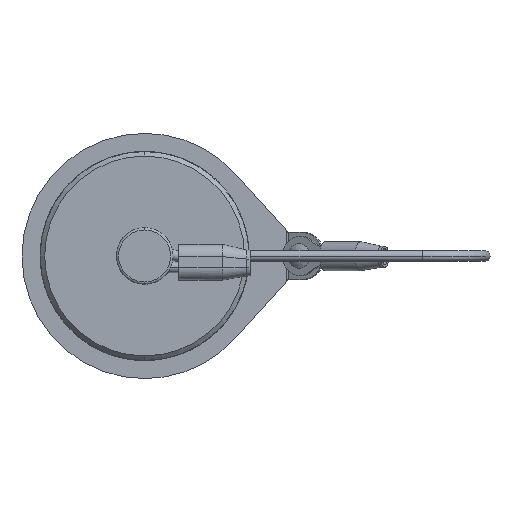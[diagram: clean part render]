
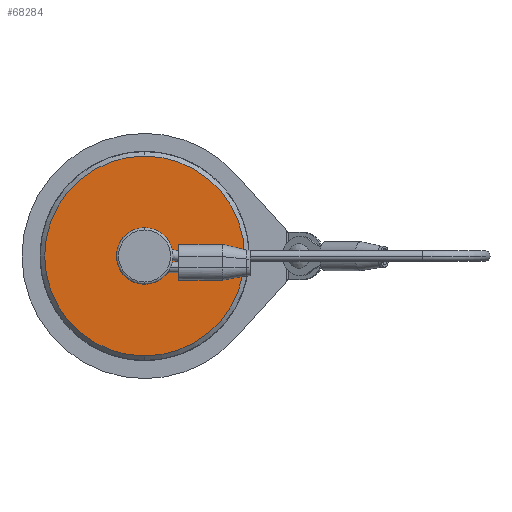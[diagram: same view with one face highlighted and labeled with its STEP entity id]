
A CAD part, left-side view. The second image highlights one B-rep face of the part: STEP entity #68284.
In plain terms, the highlighted planar face has unit normal (-1, 0, 0).
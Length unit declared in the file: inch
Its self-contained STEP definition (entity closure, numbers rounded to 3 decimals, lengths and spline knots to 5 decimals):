
#1373 = DIRECTION ( 'NONE',  ( 1., 0., 0. ) ) ;
#2099 = CARTESIAN_POINT ( 'NONE',  ( 0.25, 0., 0.8825 ) ) ;
#2123 = EDGE_LOOP ( 'NONE', ( #6202, #53183 ) ) ;
#2503 = EDGE_CURVE ( 'NONE', #94293, #85281, #62223, .T. ) ;
#5215 = EDGE_CURVE ( 'NONE', #102620, #30847, #60748, .T. ) ;
#5622 = DIRECTION ( 'NONE',  ( 0., 0., 1. ) ) ;
#6202 = ORIENTED_EDGE ( 'NONE', *, *, #61742, .F. ) ;
#9964 = CIRCLE ( 'NONE', #42790, 0.8825 ) ;
#11215 = CARTESIAN_POINT ( 'NONE',  ( 0.25, 0.8825, 0. ) ) ;
#12260 = FACE_BOUND ( 'NONE', #101169, .T. ) ;
#24865 = CARTESIAN_POINT ( 'NONE',  ( 0.25, 0., 0. ) ) ;
#30847 = VERTEX_POINT ( 'NONE', #61119 ) ;
#34624 = AXIS2_PLACEMENT_3D ( 'NONE', #46193, #45654, #105022 ) ;
#41702 = AXIS2_PLACEMENT_3D ( 'NONE', #11215, #79570, #5622 ) ;
#42790 = AXIS2_PLACEMENT_3D ( 'NONE', #58162, #92137, #65739 ) ;
#43404 = AXIS2_PLACEMENT_3D ( 'NONE', #84475, #1373, #66189 ) ;
#45654 = DIRECTION ( 'NONE',  ( 1., 0., 0. ) ) ;
#46193 = CARTESIAN_POINT ( 'NONE',  ( 0.25, 0., 0. ) ) ;
#48827 = EDGE_CURVE ( 'NONE', #85281, #94293, #89953, .T. ) ;
#52219 = PLANE ( 'NONE',  #41702 ) ;
#53183 = ORIENTED_EDGE ( 'NONE', *, *, #5215, .F. ) ;
#58162 = CARTESIAN_POINT ( 'NONE',  ( 0.25, 0., 0. ) ) ;
#60748 = CIRCLE ( 'NONE', #67631, 0.8825 ) ;
#61119 = CARTESIAN_POINT ( 'NONE',  ( 0.25, 0., -0.8825 ) ) ;
#61742 = EDGE_CURVE ( 'NONE', #30847, #102620, #9964, .T. ) ;
#62223 = CIRCLE ( 'NONE', #34624, 0.25 ) ;
#64338 = DIRECTION ( 'NONE',  ( 1., 0., 0. ) ) ;
#65739 = DIRECTION ( 'NONE',  ( 0., 0., -1. ) ) ;
#66189 = DIRECTION ( 'NONE',  ( 0., 0., -1. ) ) ;
#67631 = AXIS2_PLACEMENT_3D ( 'NONE', #24865, #64338, #74019 ) ;
#68284 = ADVANCED_FACE ( 'NONE', ( #12260, #76014 ), #52219, .T. ) ;
#69535 = CARTESIAN_POINT ( 'NONE',  ( 0.25, 0., -0.25 ) ) ;
#70314 = CARTESIAN_POINT ( 'NONE',  ( 0.25, 0., 0.25 ) ) ;
#74019 = DIRECTION ( 'NONE',  ( 0., 0., -1. ) ) ;
#76014 = FACE_OUTER_BOUND ( 'NONE', #2123, .T. ) ;
#79570 = DIRECTION ( 'NONE',  ( -1., 0., 0. ) ) ;
#84475 = CARTESIAN_POINT ( 'NONE',  ( 0.25, 0., 0. ) ) ;
#85281 = VERTEX_POINT ( 'NONE', #70314 ) ;
#89953 = CIRCLE ( 'NONE', #43404, 0.25 ) ;
#92137 = DIRECTION ( 'NONE',  ( 1., 0., 0. ) ) ;
#94293 = VERTEX_POINT ( 'NONE', #69535 ) ;
#98057 = ORIENTED_EDGE ( 'NONE', *, *, #48827, .T. ) ;
#101169 = EDGE_LOOP ( 'NONE', ( #102093, #98057 ) ) ;
#102093 = ORIENTED_EDGE ( 'NONE', *, *, #2503, .T. ) ;
#102620 = VERTEX_POINT ( 'NONE', #2099 ) ;
#105022 = DIRECTION ( 'NONE',  ( 0., 0., -1. ) ) ;
